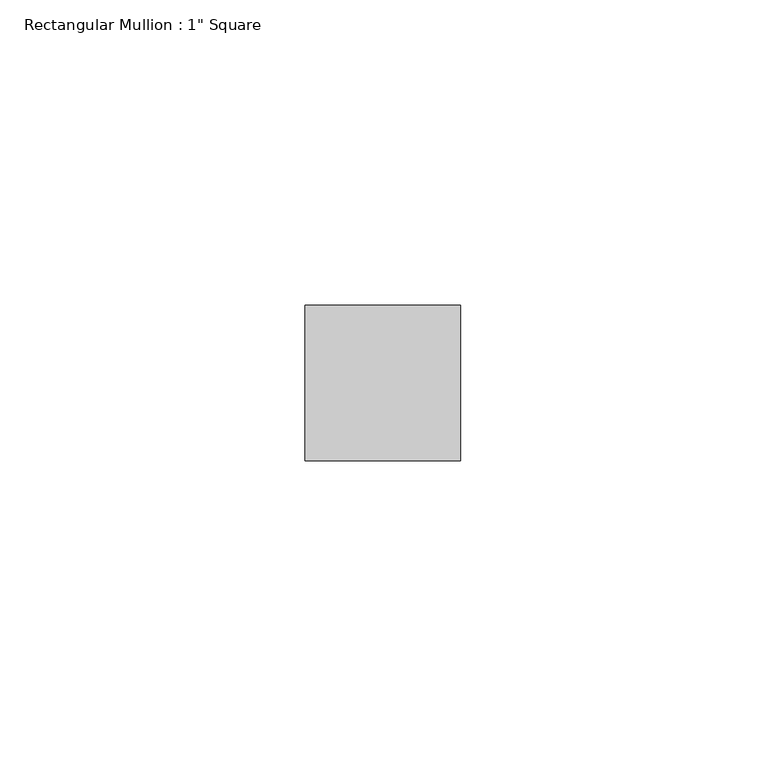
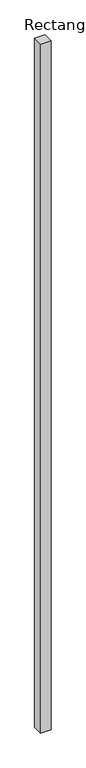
"""IFC4 building model written with IfcOpenShell, lengths in millimetres: member geometry."""

from ifc_helpers import new_model, si_unit, frame, origin, place, context, project, spatial, polyline, outline, extrude, source, transform, mapped, element, save


def member_4609ab2d(model_context):
    return source(origin(), model_context, "Body", "SweptSolid", [
        extrude(outline(polyline([(12.7, 12.7), (12.7, -12.7), (-12.7, -12.7), (-12.7, 12.7), (12.7, 12.7)])), frame((0.0, 0.0, -1799.9000345), z_axis=(0.0, 0.0, 1.0), x_axis=(1.0, 0.0, 0.0)), (0.0, 0.0, 1.0), 1799.9000345),
    ])


if __name__ == "__main__":
    model = new_model("IFC4")
    model_context = context("Model", 3, world=origin())
    ifc_project = project(units=[si_unit("LENGTHUNIT", "METRE", prefix="MILLI")], contexts=[model_context])
    site = spatial("IfcSite", under=ifc_project)
    building = spatial("IfcBuilding", under=site)
    placement = place(None, origin())
    member_shape = member_4609ab2d(model_context)
    element("IfcMember", 1, ObjectType="Rectangular Mullion : 1\" Square", at=placement, inside=building, context=model_context, shape_type="MappedRepresentation", body=[
        mapped(member_shape, transform((0.0, 0.0, 0.0), x_axis=(1.0, 0.0, 0.0), y_axis=(0.0, 1.0, 0.0), z_axis=(0.0, 0.0, 1.0))),
    ])
    save(model, "model.ifc")
